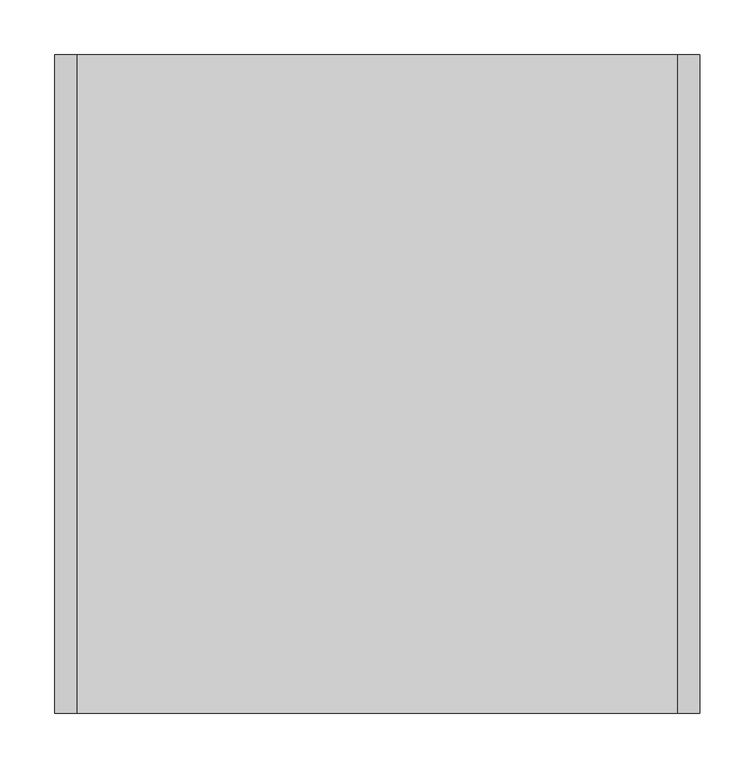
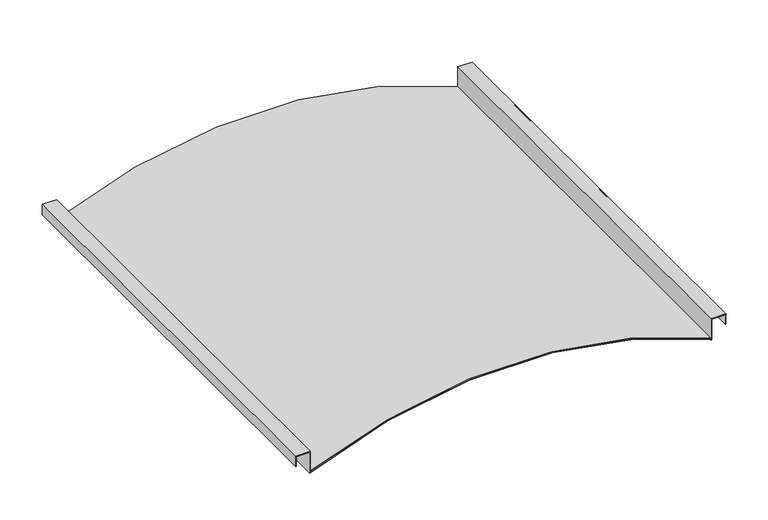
"""IFC4 building model written with IfcOpenShell, lengths in millimetres: proxy geometry, durlum_S5_DOMUS_panel : durlum_S5_DOMUS_panel_wall_length_cut."""

from ifc_helpers import new_model, si_unit, point, frame, frame_2d, origin, place, context, project, spatial, polyline, circle_curve, trimmed, segment, composite_curve, outline, extrude, source, transform, mapped, element, save


def generic_models_70da1f73(model_context):
    return source(origin(), model_context, "Body", "SweptSolid", [
        extrude(outline(composite_curve([segment(trimmed(circle_curve(frame_2d((-599.0630208, 0.0)), 660.0630208), [point((1.5567665, -273.75))], [point((1.5567665, 273.75))], True, "CARTESIAN"), True, "CONTINUOUS"), segment(polyline([(1.5567665, 273.75), (2.6555637, 273.75)]), True, "CONTINUOUS"), segment(trimmed(circle_curve(frame_2d((-599.0630208, 0.0)), 661.0630208), [point((2.6555637, 273.75))], [point((2.6555637, -273.75))], False, "CARTESIAN"), True, "CONTINUOUS"), segment(polyline([(2.6555637, -273.75), (1.5567665, -273.75)]), True, "CONTINUOUS")], self_intersect=False)), frame((0.0, -299.75, 0.0), z_axis=(0.0, 1.0, 0.0), x_axis=(0.0, 0.0, 1.0)), (0.0, 0.0, 1.0), 599.5),
        extrude(outline(polyline([(30.0, -274.75), (0.0, -274.75), (0.0, -273.75), (31.0, -273.75), (31.0, -293.75), (16.0, -293.75), (16.0, -292.75), (30.0, -292.75), (30.0, -274.75)])), frame((0.0, -299.75, 0.0), z_axis=(0.0, 1.0, 0.0), x_axis=(0.0, 0.0, 1.0)), (0.0, 0.0, 1.0), 599.5),
        extrude(outline(polyline([(30.0, 274.75), (30.0, 292.75), (16.0, 292.75), (16.0, 293.75), (31.0, 293.75), (31.0, 273.75), (0.0, 273.75), (0.0, 274.75), (30.0, 274.75)])), frame((0.0, -299.75, 0.0), z_axis=(0.0, 1.0, 0.0), x_axis=(0.0, 0.0, 1.0)), (0.0, 0.0, 1.0), 599.5),
        extrude(outline(composite_curve([segment(polyline([(1.0999812, -274.75), (0.0, -274.75)]), True, "CONTINUOUS"), segment(trimmed(circle_curve(frame_2d((-599.0630208, 0.0)), 659.0630208), [point((0.0, -274.75))], [point((0.0, 274.75))], True, "CARTESIAN"), True, "CONTINUOUS"), segment(polyline([(0.0, 274.75), (1.0999812, 274.75)]), True, "CONTINUOUS"), segment(trimmed(circle_curve(frame_2d((-599.0630208, 0.0)), 660.0630208), [point((1.0999812, 274.75))], [point((1.0999812, -274.75))], False, "CARTESIAN"), True, "CONTINUOUS")], self_intersect=False)), frame((0.0, -299.75, 0.0), z_axis=(0.0, 1.0, 0.0), x_axis=(0.0, 0.0, 1.0)), (0.0, 0.0, 1.0), 599.5),
    ])


if __name__ == "__main__":
    model = new_model("IFC4")
    model_context = context("Model", 3, world=origin())
    ifc_project = project(units=[si_unit("LENGTHUNIT", "METRE", prefix="MILLI")], contexts=[model_context])
    site = spatial("IfcSite", under=ifc_project)
    building = spatial("IfcBuilding", under=site)
    placement = place(None, origin())
    generic_models_shape = generic_models_70da1f73(model_context)
    element("IfcBuildingElementProxy", 1, Name="durlum_S5_DOMUS_panel : durlum_S5_DOMUS_panel_wall_length_cut", ObjectType="durlum_S5_DOMUS_panel : durlum_S5_DOMUS_panel_wall_length_cut", at=placement, inside=building, context=model_context, shape_type="MappedRepresentation", body=[
        mapped(generic_models_shape, transform((0.0, 0.0, 0.0), x_axis=(1.0, 0.0, 0.0), y_axis=(0.0, 1.0, 0.0), z_axis=(0.0, 0.0, 1.0))),
    ])
    save(model, "model.ifc")
